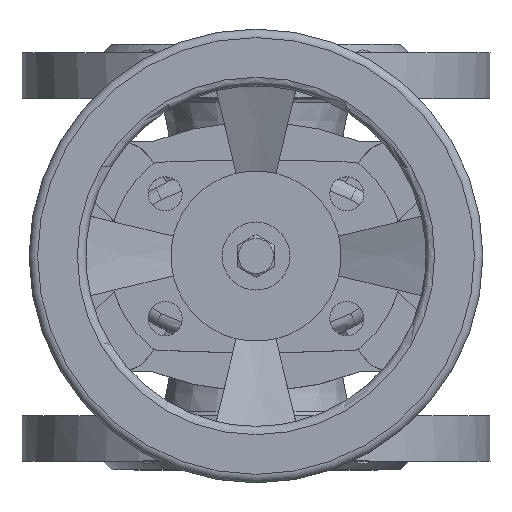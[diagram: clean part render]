
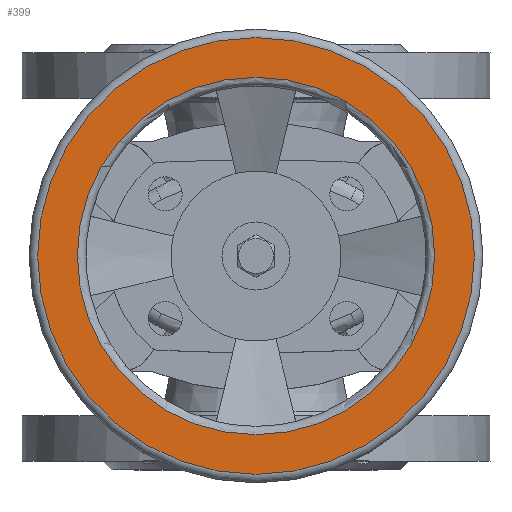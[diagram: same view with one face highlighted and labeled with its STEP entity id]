
A CAD part, top view. The second image highlights one B-rep face of the part: STEP entity #399.
In plain terms, the highlighted planar face has unit normal (0, 0, 1).
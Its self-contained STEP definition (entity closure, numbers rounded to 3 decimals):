
#399=ADVANCED_FACE('',(#2558,#2560),#2562,.T.);
#2558=FACE_BOUND('',#2559,.T.);
#2559=EDGE_LOOP('',(#4327));
#2560=FACE_BOUND('',#2561,.T.);
#2561=EDGE_LOOP('',(#4328));
#2562=PLANE('',#2563);
#2563=AXIS2_PLACEMENT_3D('',#2564,#2565,#2566);
#2564=CARTESIAN_POINT('',(0.,0.,236.5));
#2565=DIRECTION('',(0.,0.,1.));
#2566=DIRECTION('',(0.,-1.,0.));
#4327=ORIENTED_EDGE('',*,*,#5537,.T.);
#4328=ORIENTED_EDGE('',*,*,#5507,.F.);
#5507=EDGE_CURVE('',#6198,#6198,#6199,.T.);
#5537=EDGE_CURVE('',#6243,#6243,#6244,.T.);
#6198=VERTEX_POINT('',#7727);
#6199=CIRCLE('',#7728,63.);
#6243=VERTEX_POINT('',#7844);
#6244=CIRCLE('',#7845,77.);
#7727=CARTESIAN_POINT('',(0.,-63.,236.5));
#7728=AXIS2_PLACEMENT_3D('',#7729,#7730,#7731);
#7729=CARTESIAN_POINT('',(0.,0.,236.5));
#7730=DIRECTION('',(0.,0.,1.));
#7731=DIRECTION('',(0.,-1.,0.));
#7844=CARTESIAN_POINT('',(0.,-77.,236.5));
#7845=AXIS2_PLACEMENT_3D('',#7846,#7847,#7848);
#7846=CARTESIAN_POINT('',(0.,0.,236.5));
#7847=DIRECTION('',(0.,0.,1.));
#7848=DIRECTION('',(0.,-1.,0.));
